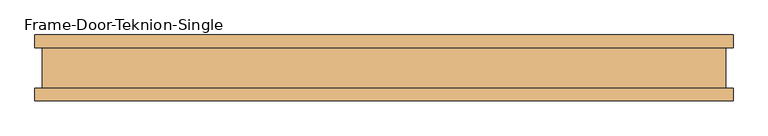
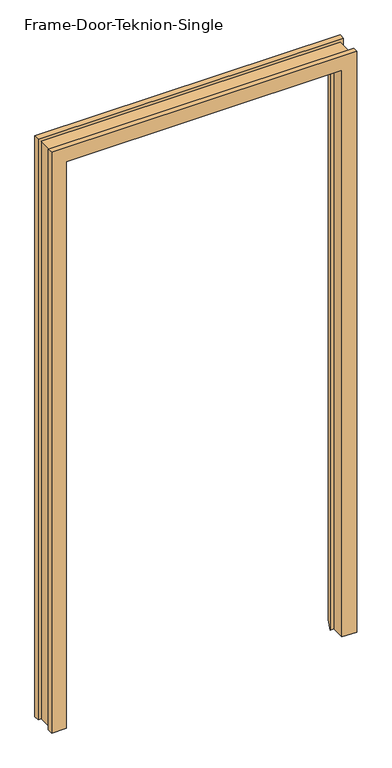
"""IFC4 building model written with IfcOpenShell, lengths in millimetres: door geometry, Frame-Door-Teknion-Single : FPFHS."""

import ifcopenshell
import ifcopenshell.guid

model = None  # the IFC model being written
_history = None  # IfcOwnerHistory: only IFC2X3 demands one
_inside = {}  # id of a spatial element -> (the spatial element, [elements in it])
_under = {}  # id of a project, library or spatial element -> (it, [spatial elements below it])
_declared = {}  # id of a project -> (the project, [libraries it declares])
_typed = {}  # id of a type object -> (the type object, [elements of that type])
_made_of = {}  # id of a material, layer set ... -> (it, [elements and type objects made of it])


def new_model(schema):
    """Start an empty IFC model of exactly this schema.

    Asked for "IFC4X3", IfcOpenShell would pick the latest addendum, in which some entities
    have other attributes; the version numbers below select the first issue.
    IFC2X3 requires an IfcOwnerHistory on every rooted entity: one is made here for all.
    """
    global model, _history
    if schema == "IFC4X3":
        model = ifcopenshell.file(schema_version=(4, 3, 0, 0))
    else:
        model = ifcopenshell.file(schema=schema)
    _inside.clear()
    _under.clear()
    _declared.clear()
    _typed.clear()
    _made_of.clear()
    _history = None
    if model.schema == "IFC2X3":
        org = make("IfcOrganization", Name="unknown")
        user = make(
            "IfcPersonAndOrganization",
            ThePerson=make("IfcPerson", FamilyName="unknown"),
            TheOrganization=org,
        )
        app = make(
            "IfcApplication",
            ApplicationDeveloper=org,
            Version="unknown",
            ApplicationFullName="unknown",
            ApplicationIdentifier="unknown",
        )
        _history = make(
            "IfcOwnerHistory",
            OwningUser=user,
            OwningApplication=app,
            ChangeAction="ADDED",
            CreationDate=0,
        )
    return model


def make(cls, **values):
    """One entity of the class cls with the attributes given. An attribute that is None is left unset."""
    return model.create_entity(
        cls, **{name: value for name, value in values.items() if value is not None}
    )


def rooted(cls, **values):
    """An entity with a GlobalId (a new one), such as an element, a storey or a relation."""
    return make(cls, GlobalId=ifcopenshell.guid.new(), OwnerHistory=_history, **values)


def si_unit(unit_type, name, prefix=None):
    """IfcSIUnit, for example si_unit("LENGTHUNIT", "METRE", prefix="MILLI")."""
    return make("IfcSIUnit", UnitType=unit_type, Prefix=prefix, Name=name)


def assignment(units):
    """IfcUnitAssignment: the units of a project."""
    return None if units is None else make("IfcUnitAssignment", Units=units)


def point(xyz):
    """IfcCartesianPoint."""
    return None if xyz is None else make("IfcCartesianPoint", Coordinates=xyz)


def direction(xyz):
    """IfcDirection."""
    return None if xyz is None else make("IfcDirection", DirectionRatios=xyz)


def frame(location, z_axis=None, x_axis=None):
    """IfcAxis2Placement3D, a coordinate frame: its origin and axes. An axis left out is left unset."""
    return make(
        "IfcAxis2Placement3D",
        Location=point(location),
        Axis=direction(z_axis),
        RefDirection=direction(x_axis),
    )


def origin():
    """The frame at (0, 0, 0) with its axes left unset."""
    return frame((0.0, 0.0, 0.0))


def place(relative_to, where):
    """IfcLocalPlacement: puts the frame where relative to a parent placement (None: the world)."""
    return make(
        "IfcLocalPlacement", PlacementRelTo=relative_to, RelativePlacement=where
    )


def context(
    kind, dimensions, precision=None, world=None, true_north=None, identifier=None
):
    """IfcGeometricRepresentationContext, for example the 3D "Model" context."""
    return make(
        "IfcGeometricRepresentationContext",
        ContextIdentifier=identifier,
        ContextType=kind,
        CoordinateSpaceDimension=dimensions,
        Precision=precision,
        WorldCoordinateSystem=world,
        TrueNorth=true_north,
    )


def project(units=None, contexts=None):
    """IfcProject with its units and contexts."""
    return rooted(
        "IfcProject",
        Name="project",
        RepresentationContexts=contexts,
        UnitsInContext=assignment(units),
    )


def spatial(cls, under=None, at=None, **own):
    """A site, building, storey or space (cls), placed at a placement, below another one or the project."""
    s = rooted(cls, ObjectPlacement=at, **own)
    if under is not None:
        _under.setdefault(under.id(), (under, []))[1].append(s)
    return s


def faces_of(points, faces, orient=None, outer=None):
    """IfcFace entities. A face is a list of loops; a loop is a list of indices into points, from 0.

    orient and outer hold one flag for each loop. By default every Orientation is true, the
    first loop of a face is its IfcFaceOuterBound and the others are IfcFaceBound.
    """
    made = []
    for i, loops in enumerate(faces):
        bounds = []
        for j, loop in enumerate(loops):
            is_outer = j == 0 if outer is None else outer[i][j]
            bounds.append(
                make(
                    "IfcFaceOuterBound" if is_outer else "IfcFaceBound",
                    Bound=make("IfcPolyLoop", Polygon=[points[k] for k in loop]),
                    Orientation=True if orient is None else orient[i][j],
                )
            )
        made.append(make("IfcFace", Bounds=bounds))
    return made


def faceted_brep(points, faces, orient=None, outer=None, voids=None):
    """IfcFacetedBrep: a solid bounded by flat faces; with voids (closed shells), ...WithVoids."""
    shared = [point(p) for p in points]
    hull = make("IfcClosedShell", CfsFaces=faces_of(shared, faces, orient, outer))
    if voids is None:
        return make("IfcFacetedBrep", Outer=hull)
    return make(
        "IfcFacetedBrepWithVoids",
        Outer=hull,
        Voids=[
            make(cls, CfsFaces=faces_of(shared, fs, o, b)) for cls, fs, o, b in voids
        ],
    )


def shape(context_of_items, identifier, shape_type, items):
    """IfcShapeRepresentation: the items that make up one representation, for example the "Body"."""
    return make(
        "IfcShapeRepresentation",
        ContextOfItems=context_of_items,
        RepresentationIdentifier=identifier,
        RepresentationType=shape_type,
        Items=items,
    )


def source(mapping_origin, context_of_items, identifier, shape_type, items):
    """IfcRepresentationMap: a shape defined once, which mapped items show again and again."""
    return make(
        "IfcRepresentationMap",
        MappingOrigin=mapping_origin,
        MappedRepresentation=shape(context_of_items, identifier, shape_type, items),
    )


def transform(
    local_origin,
    x_axis=None,
    y_axis=None,
    z_axis=None,
    scale=None,
    scale2=None,
    scale3=None,
    uniform=True,
):
    """IfcCartesianTransformationOperator3D, or its non-uniform kind. x_axis, y_axis, z_axis: its Axis1, 2, 3."""
    if uniform:
        return make(
            "IfcCartesianTransformationOperator3D",
            Axis1=direction(x_axis),
            Axis2=direction(y_axis),
            LocalOrigin=point(local_origin),
            Scale=scale,
            Axis3=direction(z_axis),
        )
    return make(
        "IfcCartesianTransformationOperator3DnonUniform",
        Axis1=direction(x_axis),
        Axis2=direction(y_axis),
        LocalOrigin=point(local_origin),
        Scale=scale,
        Axis3=direction(z_axis),
        Scale2=scale2,
        Scale3=scale3,
    )


def mapped(mapping_source, mapping_target):
    """IfcMappedItem: shows the shape of a source again, moved by a transform."""
    return make(
        "IfcMappedItem", MappingSource=mapping_source, MappingTarget=mapping_target
    )


def made_of(thing, what):
    """Note that an element or type object is made of a material, layer set ...; save() writes the relation."""
    if what is not None:
        _made_of.setdefault(what.id(), (what, []))[1].append(thing)
    return thing


def element(
    cls,
    number,
    at=None,
    inside=None,
    cuts=None,
    type_object=None,
    material=None,
    context=None,
    identifier="Body",
    shape_type=None,
    held_by="IfcProductDefinitionShape",
    body=None,
    shapes=None,
    **own,
):
    """One element of the class cls, such as IfcWall. Its Tag is "e" and its number.

    at: its placement. inside: the storey or other place that contains it. cuts: it is an
    opening in that element (IfcRelVoidsElement). A single representation is given by context,
    identifier, shape_type and body (its items); several are given by shapes. held_by: the class
    of the entity that holds the representations. save() writes the other relations.
    """
    e = rooted(cls, Tag="e%d" % number, ObjectPlacement=at, **own)
    if body is not None:
        shapes = [shape(context, identifier, shape_type, body)]
    if shapes is not None:
        e.Representation = make(held_by, Representations=shapes)
    if inside is not None:
        _inside.setdefault(inside.id(), (inside, []))[1].append(e)
    if cuts is not None:
        rooted(
            "IfcRelVoidsElement", RelatingBuildingElement=cuts, RelatedOpeningElement=e
        )
    if type_object is not None:
        _typed.setdefault(type_object.id(), (type_object, []))[1].append(e)
    return made_of(e, material)


def aggregate(whole, parts):
    """IfcRelAggregates: a whole, such as a stair, and the parts it consists of."""
    return rooted("IfcRelAggregates", RelatingObject=whole, RelatedObjects=parts)


def save(model, path):
    """Write the relations noted so far, then the file.

    IfcRelAggregates (storeys below a building ...), IfcRelContainedInSpatialStructure (elements
    in a storey), IfcRelDefinesByType, IfcRelAssociatesMaterial and IfcRelDeclares: one each for
    every whole, place, type object, material and project.
    """
    for whole, parts in _under.values():
        aggregate(whole, parts)
    for where, things in _inside.values():
        rooted(
            "IfcRelContainedInSpatialStructure",
            RelatedElements=things,
            RelatingStructure=where,
        )
    for kind, things in _typed.values():
        rooted("IfcRelDefinesByType", RelatedObjects=things, RelatingType=kind)
    for what, things in _made_of.values():
        rooted("IfcRelAssociatesMaterial", RelatedObjects=things, RelatingMaterial=what)
    for by, libraries in _declared.values():
        rooted("IfcRelDeclares", RelatingContext=by, RelatedDefinitions=libraries)
    model.write(path)


def frame_door_teknion_single_db31a861(model_context):
    return source(origin(), model_context, "Body", "Brep", [
        faceted_brep([(-478.9807565, -50.038, 0.0), (-530.4157565, -50.038, 0.0), (-530.4157565, -30.7719997, 0.0), (-519.4101562, -30.7719997, 0.0), (-519.4101562, 30.7719997, 0.0), (-530.4157565, 30.7719997, 0.0), (-530.4157565, 50.038, 0.0), (-488.5054518, 50.038, 0.0), (-466.0583342, -0.7133435, 0.0), (-478.9807565, -0.7133435, 0.0), (-478.9807565, -0.7133435, 2082.165), (-478.9807565, -50.038, 2082.165), (-466.0583342, -0.7133435, 2069.2425776), (466.0583342, -0.7133435, 2069.2425776), (466.0583342, -0.7133435, 0.0), (478.9807565, -0.7133435, 0.0), (478.9807565, -0.7133435, 2082.165), (-488.5054518, 50.038, 2091.6896953), (-530.4157565, 50.038, 2133.6), (530.4157565, 50.038, 2133.6), (530.4157565, 50.038, 0.0), (488.5054518, 50.038, 0.0), (488.5054518, 50.038, 2091.6896953), (-530.4157565, 30.7719997, 2133.6), (-519.4101562, 30.7719997, 2122.5943997), (519.4101563, 30.7719997, 2122.5943997), (519.4101563, 30.7719997, 0.0), (530.4157565, 30.7719997, 0.0), (530.4157565, 30.7719997, 2133.6), (-519.4101562, -30.7719997, 2122.5943997), (-530.4157565, -30.7719997, 2133.6), (530.4157565, -30.7719997, 2133.6), (530.4157565, -30.7719997, 0.0), (519.4101563, -30.7719997, 0.0), (519.4101563, -30.7719997, 2122.5943997), (-530.4157565, -50.038, 2133.6), (478.9807565, -50.038, 2082.165), (478.9807565, -50.038, 0.0), (530.4157565, -50.038, 0.0), (530.4157565, -50.038, 2133.6)], [[[0, 1, 2, 3, 4, 5, 6, 7, 8, 9]], [[9, 10, 11, 0]], [[8, 12, 13, 14, 15, 16, 10, 9]], [[7, 17, 12, 8]], [[6, 18, 19, 20, 21, 22, 17, 7]], [[5, 23, 18, 6]], [[4, 24, 25, 26, 27, 28, 23, 5]], [[3, 29, 24, 4]], [[2, 30, 31, 32, 33, 34, 29, 3]], [[1, 35, 30, 2]], [[0, 11, 36, 37, 38, 39, 35, 1]], [[37, 15, 14, 21, 20, 27, 26, 33, 32, 38]], [[16, 15, 37, 36]], [[22, 21, 14, 13]], [[28, 27, 20, 19]], [[34, 33, 26, 25]], [[39, 38, 32, 31]], [[10, 16, 36, 11]], [[17, 22, 13, 12]], [[23, 28, 19, 18]], [[29, 34, 25, 24]], [[35, 39, 31, 30]]]),
    ])


if __name__ == "__main__":
    model = new_model("IFC4")
    model_context = context("Model", 3, world=origin())
    ifc_project = project(units=[si_unit("LENGTHUNIT", "METRE", prefix="MILLI")], contexts=[model_context])
    site = spatial("IfcSite", under=ifc_project)
    building = spatial("IfcBuilding", under=site)
    placement = place(None, origin())
    frame_door_teknion_single_shape = frame_door_teknion_single_db31a861(model_context)
    element("IfcDoor", 1, ObjectType="Frame-Door-Teknion-Single : FPFHS", at=placement, inside=building, context=model_context, shape_type="MappedRepresentation", body=[
        mapped(frame_door_teknion_single_shape, transform((0.0, 0.0, 0.0), x_axis=(1.0, 0.0, 0.0), y_axis=(0.0, 1.0, 0.0), z_axis=(0.0, 0.0, 1.0))),
    ])
    save(model, "model.ifc")
